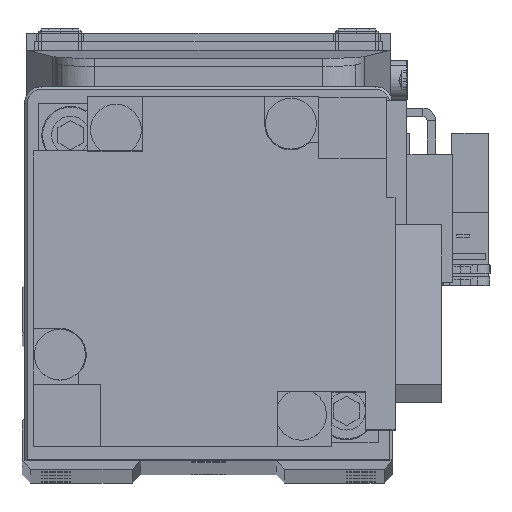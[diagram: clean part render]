
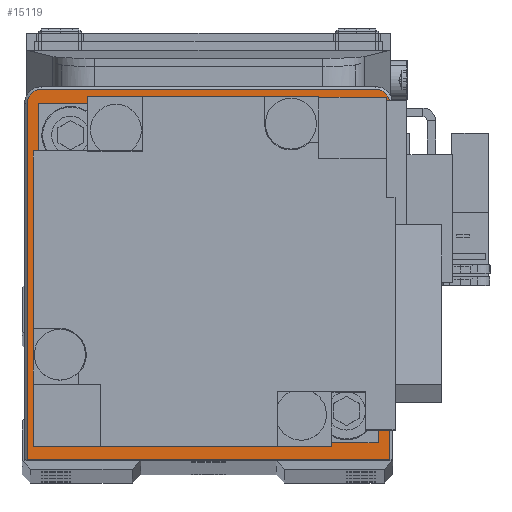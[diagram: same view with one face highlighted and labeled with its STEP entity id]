
A CAD part, top view. The second image highlights one B-rep face of the part: STEP entity #15119.
In plain terms, the highlighted planar face has unit normal (0, 0, 1).
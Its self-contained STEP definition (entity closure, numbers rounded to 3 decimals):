
#1081 = VERTEX_POINT ( 'NONE', #24698 ) ;
#1387 = CARTESIAN_POINT ( 'NONE',  ( -21.7, -22., 26.5 ) ) ;
#1763 = EDGE_CURVE ( 'NONE', #13928, #16775, #34629, .T. ) ;
#1980 = CARTESIAN_POINT ( 'NONE',  ( 0., 0., 26.5 ) ) ;
#2130 = CARTESIAN_POINT ( 'NONE',  ( 19.7, 20., 26.5 ) ) ;
#2820 = AXIS2_PLACEMENT_3D ( 'NONE', #30018, #5887, #16645 ) ;
#3455 = CARTESIAN_POINT ( 'NONE',  ( 0., 0., 26.5 ) ) ;
#3681 = EDGE_LOOP ( 'NONE', ( #22459, #19453 ) ) ;
#3811 = CARTESIAN_POINT ( 'NONE',  ( 21.4, 20., 26.5 ) ) ;
#3831 = AXIS2_PLACEMENT_3D ( 'NONE', #22037, #32787, #8667 ) ;
#4761 = DIRECTION ( 'NONE',  ( -1., 0., 0. ) ) ;
#5006 = ORIENTED_EDGE ( 'NONE', *, *, #27700, .T. ) ;
#5887 = DIRECTION ( 'NONE',  ( 0., 0., 1. ) ) ;
#6096 = FACE_OUTER_BOUND ( 'NONE', #23236, .T. ) ;
#6517 = AXIS2_PLACEMENT_3D ( 'NONE', #3455, #14208, #24920 ) ;
#8368 = VECTOR ( 'NONE', #14564, 1000. ) ;
#8464 = CARTESIAN_POINT ( 'NONE',  ( 21.4, -22., 26.5 ) ) ;
#8505 = CARTESIAN_POINT ( 'NONE',  ( 19.7, 21.7, 26.5 ) ) ;
#8667 = DIRECTION ( 'NONE',  ( 1., 0., 0. ) ) ;
#9527 = EDGE_CURVE ( 'NONE', #19432, #16189, #18164, .T. ) ;
#10525 = CARTESIAN_POINT ( 'NONE',  ( -21.4, -22., 26.5 ) ) ;
#10980 = CIRCLE ( 'NONE', #30655, 1.7 ) ;
#11491 = CARTESIAN_POINT ( 'NONE',  ( 21.4, 20., 26.5 ) ) ;
#12118 = ORIENTED_EDGE ( 'NONE', *, *, #32365, .T. ) ;
#12163 = DIRECTION ( 'NONE',  ( 1., 0., 0. ) ) ;
#12744 = DIRECTION ( 'NONE',  ( 0., 0., 1. ) ) ;
#12896 = DIRECTION ( 'NONE',  ( 0., 0., 1. ) ) ;
#13928 = VERTEX_POINT ( 'NONE', #24763 ) ;
#14208 = DIRECTION ( 'NONE',  ( 0., 0., 1. ) ) ;
#14564 = DIRECTION ( 'NONE',  ( 0., 1., 0. ) ) ;
#14637 = EDGE_CURVE ( 'NONE', #24681, #1081, #34052, .T. ) ;
#15119 = ADVANCED_FACE ( 'NONE', ( #6096, #16855 ), #27582, .T. ) ;
#16189 = VERTEX_POINT ( 'NONE', #29001 ) ;
#16645 = DIRECTION ( 'NONE',  ( 1., 0., 0. ) ) ;
#16775 = VERTEX_POINT ( 'NONE', #24014 ) ;
#16855 = FACE_BOUND ( 'NONE', #3681, .T. ) ;
#17891 = ORIENTED_EDGE ( 'NONE', *, *, #9527, .T. ) ;
#18022 = CIRCLE ( 'NONE', #2820, 10. ) ;
#18164 = LINE ( 'NONE', #28887, #29226 ) ;
#18864 = AXIS2_PLACEMENT_3D ( 'NONE', #1980, #12744, #23458 ) ;
#19173 = VERTEX_POINT ( 'NONE', #8464 ) ;
#19432 = VERTEX_POINT ( 'NONE', #8505 ) ;
#19453 = ORIENTED_EDGE ( 'NONE', *, *, #34473, .F. ) ;
#21241 = DIRECTION ( 'NONE',  ( 0., -1., 0. ) ) ;
#21269 = CARTESIAN_POINT ( 'NONE',  ( -10., 0., 26.5 ) ) ;
#22037 = CARTESIAN_POINT ( 'NONE',  ( -19.7, 20., 26.5 ) ) ;
#22138 = VECTOR ( 'NONE', #21241, 1000. ) ;
#22459 = ORIENTED_EDGE ( 'NONE', *, *, #14637, .F. ) ;
#23236 = EDGE_LOOP ( 'NONE', ( #5006, #23553, #27484, #17891, #12118, #32596 ) ) ;
#23458 = DIRECTION ( 'NONE',  ( 1., 0., 0. ) ) ;
#23553 = ORIENTED_EDGE ( 'NONE', *, *, #32841, .T. ) ;
#23609 = DIRECTION ( 'NONE',  ( 1., 0., 0. ) ) ;
#24014 = CARTESIAN_POINT ( 'NONE',  ( -21.4, -22., 26.5 ) ) ;
#24681 = VERTEX_POINT ( 'NONE', #21269 ) ;
#24698 = CARTESIAN_POINT ( 'NONE',  ( 10., 0., 26.5 ) ) ;
#24763 = CARTESIAN_POINT ( 'NONE',  ( -21.4, 20., 26.5 ) ) ;
#24920 = DIRECTION ( 'NONE',  ( 1., 0., 0. ) ) ;
#25512 = LINE ( 'NONE', #1387, #27855 ) ;
#27366 = EDGE_CURVE ( 'NONE', #32402, #19432, #10980, .T. ) ;
#27484 = ORIENTED_EDGE ( 'NONE', *, *, #27366, .T. ) ;
#27582 = PLANE ( 'NONE',  #6517 ) ;
#27700 = EDGE_CURVE ( 'NONE', #16775, #19173, #25512, .T. ) ;
#27855 = VECTOR ( 'NONE', #12163, 1000. ) ;
#27927 = LINE ( 'NONE', #3811, #8368 ) ;
#28887 = CARTESIAN_POINT ( 'NONE',  ( -19.7, 21.7, 26.5 ) ) ;
#29001 = CARTESIAN_POINT ( 'NONE',  ( -19.7, 21.7, 26.5 ) ) ;
#29226 = VECTOR ( 'NONE', #4761, 1000. ) ;
#30018 = CARTESIAN_POINT ( 'NONE',  ( 0., 0., 26.5 ) ) ;
#30655 = AXIS2_PLACEMENT_3D ( 'NONE', #2130, #12896, #23609 ) ;
#32365 = EDGE_CURVE ( 'NONE', #16189, #13928, #34209, .T. ) ;
#32402 = VERTEX_POINT ( 'NONE', #11491 ) ;
#32596 = ORIENTED_EDGE ( 'NONE', *, *, #1763, .T. ) ;
#32787 = DIRECTION ( 'NONE',  ( 0., 0., 1. ) ) ;
#32841 = EDGE_CURVE ( 'NONE', #19173, #32402, #27927, .T. ) ;
#34052 = CIRCLE ( 'NONE', #18864, 10. ) ;
#34209 = CIRCLE ( 'NONE', #3831, 1.7 ) ;
#34473 = EDGE_CURVE ( 'NONE', #1081, #24681, #18022, .T. ) ;
#34629 = LINE ( 'NONE', #10525, #22138 ) ;
